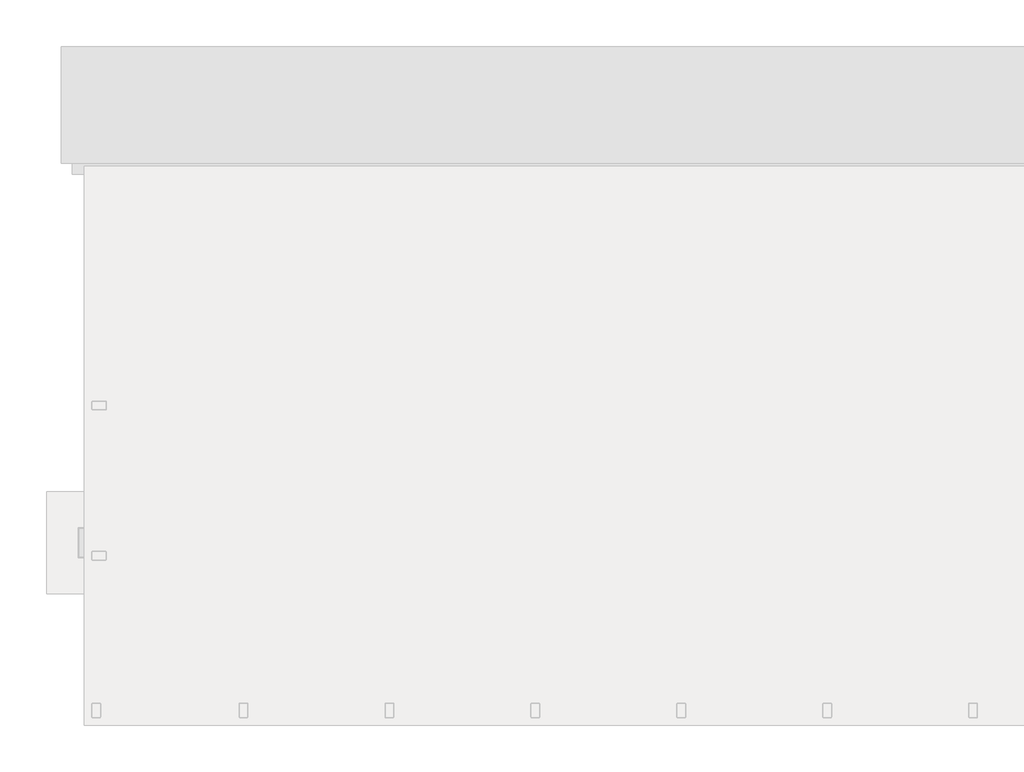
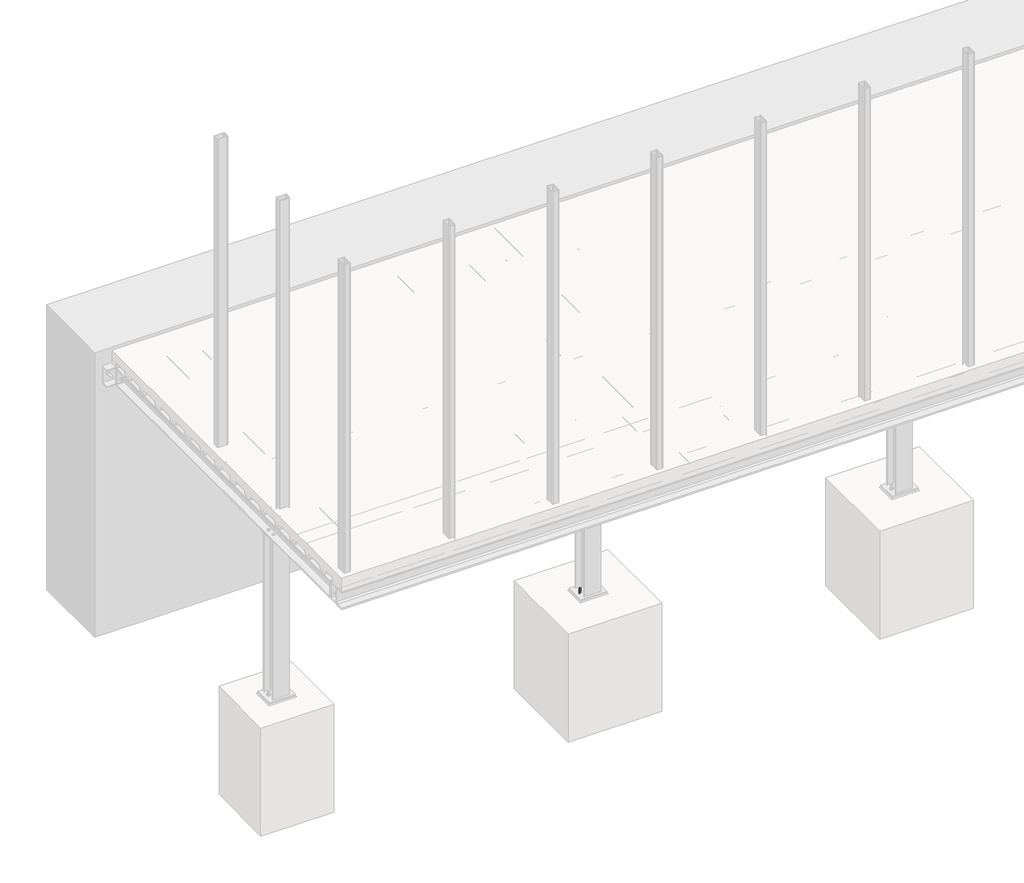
# One storey, part 22 of 36: 13 assemblies.
"""IFC4 building model written with IfcOpenShell, lengths in millimetres."""

from ifc_helpers import new_model, si_unit, point, frame, frame_2d, origin, place, context, project, spatial, polyline, circle_curve, trimmed, segment, composite_curve, outline, extrude, faceted_brep, element, save

model = new_model("IFC4")

# Units and contexts
model_context = context("Model", 3, world=origin())
ifc_project = project(units=[si_unit("LENGTHUNIT", "METRE", prefix="MILLI")], contexts=[model_context])

# Site, building, storey
site = spatial("IfcSite", under=ifc_project)
building = spatial("IfcBuilding", under=site)
storey = spatial("IfcBuildingStorey", under=building, Name="Základy", Elevation=-1200.0)

# Assemblies
placement = place(None, origin())
element("IfcElementAssembly", 1, at=placement, inside=storey, context=model_context, shape_type="SweptSolid", body=[
    extrude(outline(polyline([(3802.7875602, -160.0099992), (3772.2875602, -111.5000008), (3637.6975638, -111.5000008), (3607.1975638, -160.0000008), (3552.7875754, -160.0000008), (3522.2875754, -111.5000008), (3387.6975715, -111.5000008), (3357.1975715, -160.0000008), (3302.7875697, -160.0000008), (3272.2875716, -111.5000008), (3137.6975638, -111.5000008), (3107.1975638, -160.0000008), (3052.7875602, -160.0000008), (3022.2875602, -111.5000008), (2887.6975638, -111.5000008), (2857.1975638, -160.0000008), (2802.7875602, -160.0000008), (2790.7375724, -139.4300002), (2803.1975638, -159.2500008), (2856.7875602, -159.2500008), (2887.2875602, -110.7500008), (3022.6975638, -110.7500008), (3053.1975638, -159.2500008), (3106.7875754, -159.2500008), (3137.2875754, -110.7500008), (3272.6975715, -110.7500008), (3303.1975695, -159.2500008), (3356.7875716, -159.2500008), (3387.2875678, -110.7500008), (3522.6975638, -110.7500008), (3553.1975638, -159.2500008), (3606.7875602, -159.2500008), (3637.2875602, -110.7500008), (3772.6975638, -110.7500008), (3803.1975638, -159.2500008), (3839.9975821, -160.0000008), (3802.7875602, -160.0099992)])), frame((-40.0, 0.0, 0.0), z_axis=(1.0, 0.0, 0.0), x_axis=(0.0, 1.0, 0.0)), (0.0, 0.0, 1.0), 3180.0),
])
element("IfcElementAssembly", 2, at=placement, inside=storey, context=model_context, shape_type="SweptSolid", body=[
    extrude(outline(polyline([(2802.7875602, -160.0099992), (2772.2875602, -111.5000008), (2637.6975638, -111.5000008), (2607.1975638, -160.0000008), (2552.7875754, -160.0000008), (2522.2875754, -111.5000008), (2387.6975715, -111.5000008), (2357.1975715, -160.0000008), (2302.7875697, -160.0000008), (2272.2875716, -111.5000008), (2137.6975638, -111.5000008), (2107.1975638, -160.0000008), (2052.7875602, -160.0000008), (2022.2875602, -111.5000008), (1887.6975638, -111.5000008), (1857.1975638, -160.0000008), (1802.7875602, -160.0000008), (1790.7375724, -139.4300002), (1803.1975638, -159.2500008), (1856.7875602, -159.2500008), (1887.2875602, -110.7500008), (2022.6975638, -110.7500008), (2053.1975638, -159.2500008), (2106.7875754, -159.2500008), (2137.2875754, -110.7500008), (2272.6975715, -110.7500008), (2303.1975695, -159.2500008), (2356.7875716, -159.2500008), (2387.2875678, -110.7500008), (2522.6975638, -110.7500008), (2553.1975638, -159.2500008), (2606.7875602, -159.2500008), (2637.2875602, -110.7500008), (2772.6975638, -110.7500008), (2803.1975638, -159.2500008), (2839.9975821, -160.0000008), (2802.7875602, -160.0099992)])), frame((-40.0, 0.0, 0.0), z_axis=(1.0, 0.0, 0.0), x_axis=(0.0, 1.0, 0.0)), (0.0, 0.0, 1.0), 3180.0),
])
element("IfcElementAssembly", 3, at=placement, inside=storey, context=model_context, shape_type="SweptSolid", body=[
    extrude(outline(composite_curve([segment(polyline([(4073.6, 60.0), (4026.4, 60.0)]), True, "CONTINUOUS"), segment(trimmed(circle_curve(frame_2d((4026.4, 66.4)), 6.4), [point((4026.4, 60.0))], [point((4020.0, 66.4))], False, "CARTESIAN"), True, "CONTINUOUS"), segment(polyline([(4020.0, 66.4), (4020.0, 153.6)]), True, "CONTINUOUS"), segment(trimmed(circle_curve(frame_2d((4026.4, 153.6)), 6.4), [point((4020.0, 153.6))], [point((4026.4, 160.0))], False, "CARTESIAN"), True, "CONTINUOUS"), segment(polyline([(4026.4, 160.0), (4073.6, 160.0)]), True, "CONTINUOUS"), segment(trimmed(circle_curve(frame_2d((4073.6, 153.6)), 6.4), [point((4073.6, 160.0))], [point((4080.0, 153.6))], False, "CARTESIAN"), True, "CONTINUOUS"), segment(polyline([(4080.0, 153.6), (4080.0, 66.4)]), True, "CONTINUOUS"), segment(trimmed(circle_curve(frame_2d((4073.6, 66.4)), 6.4), [point((4080.0, 66.4))], [point((4073.6, 60.0))], False, "CARTESIAN"), True, "CONTINUOUS")], self_intersect=False), holes=[composite_curve([segment(trimmed(circle_curve(frame_2d((4073.6, 66.4)), 3.2), [point((4073.6, 63.2))], [point((4076.8, 66.4))], True, "CARTESIAN"), True, "CONTINUOUS"), segment(polyline([(4076.8, 66.4), (4076.8, 153.6)]), True, "CONTINUOUS"), segment(trimmed(circle_curve(frame_2d((4073.6, 153.6)), 3.2), [point((4076.8, 153.6))], [point((4073.6, 156.8))], True, "CARTESIAN"), True, "CONTINUOUS"), segment(polyline([(4073.6, 156.8), (4026.4, 156.8)]), True, "CONTINUOUS"), segment(trimmed(circle_curve(frame_2d((4026.4, 153.6)), 3.2), [point((4026.4, 156.8))], [point((4023.2, 153.6))], True, "CARTESIAN"), True, "CONTINUOUS"), segment(polyline([(4023.2, 153.6), (4023.2, 66.4)]), True, "CONTINUOUS"), segment(trimmed(circle_curve(frame_2d((4026.4, 66.4)), 3.2), [point((4023.2, 66.4))], [point((4026.4, 63.2))], True, "CARTESIAN"), True, "CONTINUOUS"), segment(polyline([(4026.4, 63.2), (4073.6, 63.2)]), True, "CONTINUOUS")], self_intersect=False)]), frame((0.0, 0.0, -160.0), z_axis=(0.0, 0.0, 1.0), x_axis=(1.0, 0.0, 0.0)), (0.0, 0.0, 1.0), 3320.0),
])
element("IfcElementAssembly", 4, at=placement, inside=storey, context=model_context, shape_type="SweptSolid", body=[
    extrude(outline(composite_curve([segment(polyline([(3130.0, 1184.0), (2970.0, 1184.0), (2970.0, 1193.0), (3032.0, 1193.0)]), True, "CONTINUOUS"), segment(trimmed(circle_curve(frame_2d((3032.0, 1208.0)), 15.0), [point((3032.0, 1193.0))], [point((3047.0, 1208.0))], True, "CARTESIAN"), True, "CONTINUOUS"), segment(polyline([(3047.0, 1208.0), (3047.0, 1312.0)]), True, "CONTINUOUS"), segment(trimmed(circle_curve(frame_2d((3032.0, 1312.0)), 15.0), [point((3047.0, 1312.0))], [point((3032.0, 1327.0))], True, "CARTESIAN"), True, "CONTINUOUS"), segment(polyline([(3032.0, 1327.0), (2970.0, 1327.0), (2970.0, 1336.0), (3130.0, 1336.0), (3130.0, 1327.0), (3068.0, 1327.0)]), True, "CONTINUOUS"), segment(trimmed(circle_curve(frame_2d((3068.0, 1312.0)), 15.0), [point((3068.0, 1327.0))], [point((3053.0, 1312.0))], True, "CARTESIAN"), True, "CONTINUOUS"), segment(polyline([(3053.0, 1312.0), (3053.0, 1208.0)]), True, "CONTINUOUS"), segment(trimmed(circle_curve(frame_2d((3068.0, 1208.0)), 15.0), [point((3053.0, 1208.0))], [point((3068.0, 1193.0))], True, "CARTESIAN"), True, "CONTINUOUS"), segment(polyline([(3068.0, 1193.0), (3130.0, 1193.0), (3130.0, 1184.0)]), True, "CONTINUOUS")], self_intersect=False)), frame((0.0, 0.0, -1975.0), z_axis=(0.0, 0.0, 1.0), x_axis=(1.0, 0.0, 0.0)), (0.0, 0.0, 1.0), 1625.0),
    extrude(outline(polyline([(3175.0, 1356.0), (3175.0, 1164.0), (2925.0, 1164.0), (2925.0, 1356.0), (3175.0, 1356.0)])), frame((0.0, 0.0, -1990.0), z_axis=(0.0, 0.0, 1.0), x_axis=(1.0, 0.0, 0.0)), (0.0, 0.0, 1.0), 15.0),
    extrude(outline(polyline([(3140.0, 1346.0), (3140.0, 1174.0), (2960.0, 1174.0), (2960.0, 1346.0), (3140.0, 1346.0)])), frame((0.0, 0.0, -350.0), z_axis=(0.0, 0.0, 1.0), x_axis=(1.0, 0.0, 0.0)), (0.0, 0.0, 1.0), 10.0),
    extrude(outline(polyline([(2982.7364934, 1260.0), (2978.8682467, 1253.3000002), (2971.1317533, 1253.3000002), (2967.2635066, 1260.0), (2971.1317533, 1266.6999998), (2978.8682467, 1266.6999998), (2982.7364934, 1260.0)])), frame((0.0, 0.0, -2122.0), z_axis=(0.0, 0.0, 1.0), x_axis=(1.0, 0.0, 0.0)), (0.0, 0.0, 1.0), 132.0),
    extrude(outline(composite_curve([segment(trimmed(circle_curve(frame_2d((2975.0, 1260.0)), 8.0), [point((2983.0, 1260.0))], [point((2967.0, 1260.0))], False, "CARTESIAN"), True, "CONTINUOUS"), segment(trimmed(circle_curve(frame_2d((2975.0, 1260.0)), 8.0), [point((2967.0, 1260.0))], [point((2983.0, 1260.0))], False, "CARTESIAN"), True, "CONTINUOUS")], self_intersect=False)), frame((0.0, 0.0, -1990.0), z_axis=(0.0, 0.0, 1.0), x_axis=(1.0, 0.0, 0.0)), (0.0, 0.0, 1.0), 58.0),
    extrude(outline(composite_curve([segment(trimmed(circle_curve(frame_2d((2975.0, 1260.0)), 15.0), [point((2990.0, 1260.0))], [point((2960.0, 1260.0))], False, "CARTESIAN"), True, "CONTINUOUS"), segment(trimmed(circle_curve(frame_2d((2975.0, 1260.0)), 15.0), [point((2960.0, 1260.0))], [point((2990.0, 1260.0))], False, "CARTESIAN"), True, "CONTINUOUS")], self_intersect=False)), frame((0.0, 0.0, -1975.0), z_axis=(0.0, 0.0, 1.0), x_axis=(1.0, 0.0, 0.0)), (0.0, 0.0, 1.0), 3.0),
    extrude(outline(polyline([(2990.4441197, 1260.0), (2982.7220599, 1246.625), (2967.2779401, 1246.625), (2959.5558803, 1260.0), (2967.2779401, 1273.375), (2982.7220599, 1273.375), (2990.4441197, 1260.0)])), frame((0.0, 0.0, -1972.0), z_axis=(0.0, 0.0, 1.0), x_axis=(1.0, 0.0, 0.0)), (0.0, 0.0, 1.0), 13.0),
    extrude(outline(composite_curve([segment(trimmed(circle_curve(frame_2d((2975.0, 1260.0)), 9.0), [point((2984.0, 1260.0))], [point((2966.0, 1260.0))], False, "CARTESIAN"), True, "CONTINUOUS"), segment(trimmed(circle_curve(frame_2d((2975.0, 1260.0)), 9.0), [point((2966.0, 1260.0))], [point((2984.0, 1260.0))], False, "CARTESIAN"), True, "CONTINUOUS")], self_intersect=False)), frame((0.0, 0.0, -1990.0), z_axis=(0.0, 0.0, 1.0), x_axis=(1.0, 0.0, 0.0)), (0.0, 0.0, 1.0), 15.1),
    extrude(outline(polyline([(3132.7364934, 1260.0), (3128.8682467, 1253.3000002), (3121.1317533, 1253.3000002), (3117.2635066, 1260.0), (3121.1317533, 1266.6999998), (3128.8682467, 1266.6999998), (3132.7364934, 1260.0)])), frame((0.0, 0.0, -2122.0), z_axis=(0.0, 0.0, 1.0), x_axis=(1.0, 0.0, 0.0)), (0.0, 0.0, 1.0), 132.0),
    extrude(outline(composite_curve([segment(trimmed(circle_curve(frame_2d((3125.0, 1260.0)), 8.0), [point((3133.0, 1260.0))], [point((3117.0, 1260.0))], False, "CARTESIAN"), True, "CONTINUOUS"), segment(trimmed(circle_curve(frame_2d((3125.0, 1260.0)), 8.0), [point((3117.0, 1260.0))], [point((3133.0, 1260.0))], False, "CARTESIAN"), True, "CONTINUOUS")], self_intersect=False)), frame((0.0, 0.0, -1990.0), z_axis=(0.0, 0.0, 1.0), x_axis=(1.0, 0.0, 0.0)), (0.0, 0.0, 1.0), 58.0),
    extrude(outline(composite_curve([segment(trimmed(circle_curve(frame_2d((3125.0, 1260.0)), 15.0), [point((3140.0, 1260.0))], [point((3110.0, 1260.0))], False, "CARTESIAN"), True, "CONTINUOUS"), segment(trimmed(circle_curve(frame_2d((3125.0, 1260.0)), 15.0), [point((3110.0, 1260.0))], [point((3140.0, 1260.0))], False, "CARTESIAN"), True, "CONTINUOUS")], self_intersect=False)), frame((0.0, 0.0, -1975.0), z_axis=(0.0, 0.0, 1.0), x_axis=(1.0, 0.0, 0.0)), (0.0, 0.0, 1.0), 3.0),
    extrude(outline(polyline([(3140.4441197, 1260.0), (3132.7220599, 1246.625), (3117.2779401, 1246.625), (3109.5558803, 1260.0), (3117.2779401, 1273.375), (3132.7220599, 1273.375), (3140.4441197, 1260.0)])), frame((0.0, 0.0, -1972.0), z_axis=(0.0, 0.0, 1.0), x_axis=(1.0, 0.0, 0.0)), (0.0, 0.0, 1.0), 13.0),
    extrude(outline(composite_curve([segment(trimmed(circle_curve(frame_2d((3125.0, 1260.0)), 9.0), [point((3134.0, 1260.0))], [point((3116.0, 1260.0))], False, "CARTESIAN"), True, "CONTINUOUS"), segment(trimmed(circle_curve(frame_2d((3125.0, 1260.0)), 9.0), [point((3116.0, 1260.0))], [point((3134.0, 1260.0))], False, "CARTESIAN"), True, "CONTINUOUS")], self_intersect=False)), frame((0.0, 0.0, -1990.0), z_axis=(0.0, 0.0, 1.0), x_axis=(1.0, 0.0, 0.0)), (0.0, 0.0, 1.0), 15.1),
    extrude(outline(composite_curve([segment(trimmed(circle_curve(frame_2d((3000.0, 1220.0)), 6.5), [point((3006.5, 1220.0))], [point((2993.5, 1220.0))], False, "CARTESIAN"), True, "CONTINUOUS"), segment(trimmed(circle_curve(frame_2d((3000.0, 1220.0)), 6.5), [point((2993.5, 1220.0))], [point((3006.5, 1220.0))], False, "CARTESIAN"), True, "CONTINUOUS")], self_intersect=False)), frame((0.0, 0.0, -350.0), z_axis=(0.0, 0.0, 1.0), x_axis=(1.0, 0.0, 0.0)), (0.0, 0.0, 1.0), 10.1),
    extrude(outline(polyline([(3010.3923048, 1220.0), (3005.1961524, 1211.0), (2994.8038476, 1211.0), (2989.6076952, 1220.0), (2994.8038476, 1229.0), (3005.1961524, 1229.0), (3010.3923048, 1220.0)])), frame((0.0, 0.0, -323.5), z_axis=(0.0, 0.0, 1.0), x_axis=(1.0, 0.0, 0.0)), (0.0, 0.0, 1.0), 7.5),
    extrude(outline(composite_curve([segment(trimmed(circle_curve(frame_2d((3000.0, 1220.0)), 6.0), [point((3006.0, 1220.0))], [point((2994.0, 1220.0))], False, "CARTESIAN"), True, "CONTINUOUS"), segment(trimmed(circle_curve(frame_2d((3000.0, 1220.0)), 6.0), [point((2994.0, 1220.0))], [point((3006.0, 1220.0))], False, "CARTESIAN"), True, "CONTINUOUS")], self_intersect=False)), frame((0.0, 0.0, -368.5), z_axis=(0.0, 0.0, 1.0), x_axis=(1.0, 0.0, 0.0)), (0.0, 0.0, 1.0), 45.0),
    extrude(outline(composite_curve([segment(trimmed(circle_curve(frame_2d((3000.0, 1220.0)), 12.0), [point((3012.0, 1220.0))], [point((2988.0, 1220.0))], False, "CARTESIAN"), True, "CONTINUOUS"), segment(trimmed(circle_curve(frame_2d((3000.0, 1220.0)), 12.0), [point((2988.0, 1220.0))], [point((3012.0, 1220.0))], False, "CARTESIAN"), True, "CONTINUOUS")], self_intersect=False)), frame((0.0, 0.0, -326.0), z_axis=(0.0, 0.0, 1.0), x_axis=(1.0, 0.0, 0.0)), (0.0, 0.0, 1.0), 2.5),
    extrude(outline(composite_curve([segment(trimmed(circle_curve(frame_2d((3000.0, 1220.0)), 12.0), [point((3012.0, 1220.0))], [point((2988.0, 1220.0))], False, "CARTESIAN"), True, "CONTINUOUS"), segment(trimmed(circle_curve(frame_2d((3000.0, 1220.0)), 12.0), [point((2988.0, 1220.0))], [point((3012.0, 1220.0))], False, "CARTESIAN"), True, "CONTINUOUS")], self_intersect=False)), frame((0.0, 0.0, -352.5), z_axis=(0.0, 0.0, 1.0), x_axis=(1.0, 0.0, 0.0)), (0.0, 0.0, 1.0), 2.5),
    extrude(outline(polyline([(3010.9696551, 1220.0), (3005.4848276, 1210.5), (2994.5151724, 1210.5), (2989.0303449, 1220.0), (2994.5151724, 1229.5), (3005.4848276, 1229.5), (3010.9696551, 1220.0)])), frame((0.0, 0.0, -362.5), z_axis=(0.0, 0.0, 1.0), x_axis=(1.0, 0.0, 0.0)), (0.0, 0.0, 1.0), 10.0),
    extrude(outline(composite_curve([segment(trimmed(circle_curve(frame_2d((3000.0, 1220.0)), 6.5), [point((3006.5, 1220.0))], [point((2993.5, 1220.0))], False, "CARTESIAN"), True, "CONTINUOUS"), segment(trimmed(circle_curve(frame_2d((3000.0, 1220.0)), 6.5), [point((2993.5, 1220.0))], [point((3006.5, 1220.0))], False, "CARTESIAN"), True, "CONTINUOUS")], self_intersect=False)), frame((0.0, 0.0, -340.1), z_axis=(0.0, 0.0, 1.0), x_axis=(1.0, 0.0, 0.0)), (0.0, 0.0, 1.0), 14.0),
    extrude(outline(composite_curve([segment(trimmed(circle_curve(frame_2d((3100.0, 1220.0)), 6.5), [point((3106.5, 1220.0))], [point((3093.5, 1220.0))], False, "CARTESIAN"), True, "CONTINUOUS"), segment(trimmed(circle_curve(frame_2d((3100.0, 1220.0)), 6.5), [point((3093.5, 1220.0))], [point((3106.5, 1220.0))], False, "CARTESIAN"), True, "CONTINUOUS")], self_intersect=False)), frame((0.0, 0.0, -350.0), z_axis=(0.0, 0.0, 1.0), x_axis=(1.0, 0.0, 0.0)), (0.0, 0.0, 1.0), 10.1),
    extrude(outline(polyline([(3110.3923048, 1220.0), (3105.1961524, 1211.0), (3094.8038476, 1211.0), (3089.6076952, 1220.0), (3094.8038476, 1229.0), (3105.1961524, 1229.0), (3110.3923048, 1220.0)])), frame((0.0, 0.0, -323.5), z_axis=(0.0, 0.0, 1.0), x_axis=(1.0, 0.0, 0.0)), (0.0, 0.0, 1.0), 7.5),
    extrude(outline(composite_curve([segment(trimmed(circle_curve(frame_2d((3100.0, 1220.0)), 6.0), [point((3106.0, 1220.0))], [point((3094.0, 1220.0))], False, "CARTESIAN"), True, "CONTINUOUS"), segment(trimmed(circle_curve(frame_2d((3100.0, 1220.0)), 6.0), [point((3094.0, 1220.0))], [point((3106.0, 1220.0))], False, "CARTESIAN"), True, "CONTINUOUS")], self_intersect=False)), frame((0.0, 0.0, -368.5), z_axis=(0.0, 0.0, 1.0), x_axis=(1.0, 0.0, 0.0)), (0.0, 0.0, 1.0), 45.0),
    extrude(outline(composite_curve([segment(trimmed(circle_curve(frame_2d((3100.0, 1220.0)), 12.0), [point((3112.0, 1220.0))], [point((3088.0, 1220.0))], False, "CARTESIAN"), True, "CONTINUOUS"), segment(trimmed(circle_curve(frame_2d((3100.0, 1220.0)), 12.0), [point((3088.0, 1220.0))], [point((3112.0, 1220.0))], False, "CARTESIAN"), True, "CONTINUOUS")], self_intersect=False)), frame((0.0, 0.0, -326.0), z_axis=(0.0, 0.0, 1.0), x_axis=(1.0, 0.0, 0.0)), (0.0, 0.0, 1.0), 2.5),
    extrude(outline(composite_curve([segment(trimmed(circle_curve(frame_2d((3100.0, 1220.0)), 12.0), [point((3112.0, 1220.0))], [point((3088.0, 1220.0))], False, "CARTESIAN"), True, "CONTINUOUS"), segment(trimmed(circle_curve(frame_2d((3100.0, 1220.0)), 12.0), [point((3088.0, 1220.0))], [point((3112.0, 1220.0))], False, "CARTESIAN"), True, "CONTINUOUS")], self_intersect=False)), frame((0.0, 0.0, -352.5), z_axis=(0.0, 0.0, 1.0), x_axis=(1.0, 0.0, 0.0)), (0.0, 0.0, 1.0), 2.5),
    extrude(outline(polyline([(3110.9696551, 1220.0), (3105.4848276, 1210.5), (3094.5151724, 1210.5), (3089.0303449, 1220.0), (3094.5151724, 1229.5), (3105.4848276, 1229.5), (3110.9696551, 1220.0)])), frame((0.0, 0.0, -362.5), z_axis=(0.0, 0.0, 1.0), x_axis=(1.0, 0.0, 0.0)), (0.0, 0.0, 1.0), 10.0),
    extrude(outline(composite_curve([segment(trimmed(circle_curve(frame_2d((3100.0, 1220.0)), 6.5), [point((3106.5, 1220.0))], [point((3093.5, 1220.0))], False, "CARTESIAN"), True, "CONTINUOUS"), segment(trimmed(circle_curve(frame_2d((3100.0, 1220.0)), 6.5), [point((3093.5, 1220.0))], [point((3106.5, 1220.0))], False, "CARTESIAN"), True, "CONTINUOUS")], self_intersect=False)), frame((0.0, 0.0, -340.1), z_axis=(0.0, 0.0, 1.0), x_axis=(1.0, 0.0, 0.0)), (0.0, 0.0, 1.0), 14.0),
    extrude(outline(composite_curve([segment(trimmed(circle_curve(frame_2d((3000.0, 1300.0)), 6.5), [point((3006.5, 1300.0))], [point((2993.5, 1300.0))], False, "CARTESIAN"), True, "CONTINUOUS"), segment(trimmed(circle_curve(frame_2d((3000.0, 1300.0)), 6.5), [point((2993.5, 1300.0))], [point((3006.5, 1300.0))], False, "CARTESIAN"), True, "CONTINUOUS")], self_intersect=False)), frame((0.0, 0.0, -350.0), z_axis=(0.0, 0.0, 1.0), x_axis=(1.0, 0.0, 0.0)), (0.0, 0.0, 1.0), 10.1),
    extrude(outline(polyline([(3010.3923048, 1300.0), (3005.1961524, 1291.0), (2994.8038476, 1291.0), (2989.6076952, 1300.0), (2994.8038476, 1309.0), (3005.1961524, 1309.0), (3010.3923048, 1300.0)])), frame((0.0, 0.0, -323.5), z_axis=(0.0, 0.0, 1.0), x_axis=(1.0, 0.0, 0.0)), (0.0, 0.0, 1.0), 7.5),
    extrude(outline(composite_curve([segment(trimmed(circle_curve(frame_2d((3000.0, 1300.0)), 6.0), [point((3006.0, 1300.0))], [point((2994.0, 1300.0))], False, "CARTESIAN"), True, "CONTINUOUS"), segment(trimmed(circle_curve(frame_2d((3000.0, 1300.0)), 6.0), [point((2994.0, 1300.0))], [point((3006.0, 1300.0))], False, "CARTESIAN"), True, "CONTINUOUS")], self_intersect=False)), frame((0.0, 0.0, -368.5), z_axis=(0.0, 0.0, 1.0), x_axis=(1.0, 0.0, 0.0)), (0.0, 0.0, 1.0), 45.0),
    extrude(outline(composite_curve([segment(trimmed(circle_curve(frame_2d((3000.0, 1300.0)), 12.0), [point((3012.0, 1300.0))], [point((2988.0, 1300.0))], False, "CARTESIAN"), True, "CONTINUOUS"), segment(trimmed(circle_curve(frame_2d((3000.0, 1300.0)), 12.0), [point((2988.0, 1300.0))], [point((3012.0, 1300.0))], False, "CARTESIAN"), True, "CONTINUOUS")], self_intersect=False)), frame((0.0, 0.0, -326.0), z_axis=(0.0, 0.0, 1.0), x_axis=(1.0, 0.0, 0.0)), (0.0, 0.0, 1.0), 2.5),
    extrude(outline(composite_curve([segment(trimmed(circle_curve(frame_2d((3000.0, 1300.0)), 12.0), [point((3012.0, 1300.0))], [point((2988.0, 1300.0))], False, "CARTESIAN"), True, "CONTINUOUS"), segment(trimmed(circle_curve(frame_2d((3000.0, 1300.0)), 12.0), [point((2988.0, 1300.0))], [point((3012.0, 1300.0))], False, "CARTESIAN"), True, "CONTINUOUS")], self_intersect=False)), frame((0.0, 0.0, -352.5), z_axis=(0.0, 0.0, 1.0), x_axis=(1.0, 0.0, 0.0)), (0.0, 0.0, 1.0), 2.5),
    extrude(outline(polyline([(3010.9696551, 1300.0), (3005.4848276, 1290.5), (2994.5151724, 1290.5), (2989.0303449, 1300.0), (2994.5151724, 1309.5), (3005.4848276, 1309.5), (3010.9696551, 1300.0)])), frame((0.0, 0.0, -362.5), z_axis=(0.0, 0.0, 1.0), x_axis=(1.0, 0.0, 0.0)), (0.0, 0.0, 1.0), 10.0),
    extrude(outline(composite_curve([segment(trimmed(circle_curve(frame_2d((3000.0, 1300.0)), 6.5), [point((3006.5, 1300.0))], [point((2993.5, 1300.0))], False, "CARTESIAN"), True, "CONTINUOUS"), segment(trimmed(circle_curve(frame_2d((3000.0, 1300.0)), 6.5), [point((2993.5, 1300.0))], [point((3006.5, 1300.0))], False, "CARTESIAN"), True, "CONTINUOUS")], self_intersect=False)), frame((0.0, 0.0, -340.1), z_axis=(0.0, 0.0, 1.0), x_axis=(1.0, 0.0, 0.0)), (0.0, 0.0, 1.0), 14.0),
    extrude(outline(composite_curve([segment(trimmed(circle_curve(frame_2d((3100.0, 1300.0)), 6.5), [point((3106.5, 1300.0))], [point((3093.5, 1300.0))], False, "CARTESIAN"), True, "CONTINUOUS"), segment(trimmed(circle_curve(frame_2d((3100.0, 1300.0)), 6.5), [point((3093.5, 1300.0))], [point((3106.5, 1300.0))], False, "CARTESIAN"), True, "CONTINUOUS")], self_intersect=False)), frame((0.0, 0.0, -350.0), z_axis=(0.0, 0.0, 1.0), x_axis=(1.0, 0.0, 0.0)), (0.0, 0.0, 1.0), 10.1),
    extrude(outline(polyline([(3110.3923048, 1300.0), (3105.1961524, 1291.0), (3094.8038476, 1291.0), (3089.6076952, 1300.0), (3094.8038476, 1309.0), (3105.1961524, 1309.0), (3110.3923048, 1300.0)])), frame((0.0, 0.0, -323.5), z_axis=(0.0, 0.0, 1.0), x_axis=(1.0, 0.0, 0.0)), (0.0, 0.0, 1.0), 7.5),
    extrude(outline(composite_curve([segment(trimmed(circle_curve(frame_2d((3100.0, 1300.0)), 6.0), [point((3106.0, 1300.0))], [point((3094.0, 1300.0))], False, "CARTESIAN"), True, "CONTINUOUS"), segment(trimmed(circle_curve(frame_2d((3100.0, 1300.0)), 6.0), [point((3094.0, 1300.0))], [point((3106.0, 1300.0))], False, "CARTESIAN"), True, "CONTINUOUS")], self_intersect=False)), frame((0.0, 0.0, -368.5), z_axis=(0.0, 0.0, 1.0), x_axis=(1.0, 0.0, 0.0)), (0.0, 0.0, 1.0), 45.0),
    extrude(outline(composite_curve([segment(trimmed(circle_curve(frame_2d((3100.0, 1300.0)), 12.0), [point((3112.0, 1300.0))], [point((3088.0, 1300.0))], False, "CARTESIAN"), True, "CONTINUOUS"), segment(trimmed(circle_curve(frame_2d((3100.0, 1300.0)), 12.0), [point((3088.0, 1300.0))], [point((3112.0, 1300.0))], False, "CARTESIAN"), True, "CONTINUOUS")], self_intersect=False)), frame((0.0, 0.0, -326.0), z_axis=(0.0, 0.0, 1.0), x_axis=(1.0, 0.0, 0.0)), (0.0, 0.0, 1.0), 2.5),
    extrude(outline(composite_curve([segment(trimmed(circle_curve(frame_2d((3100.0, 1300.0)), 12.0), [point((3112.0, 1300.0))], [point((3088.0, 1300.0))], False, "CARTESIAN"), True, "CONTINUOUS"), segment(trimmed(circle_curve(frame_2d((3100.0, 1300.0)), 12.0), [point((3088.0, 1300.0))], [point((3112.0, 1300.0))], False, "CARTESIAN"), True, "CONTINUOUS")], self_intersect=False)), frame((0.0, 0.0, -352.5), z_axis=(0.0, 0.0, 1.0), x_axis=(1.0, 0.0, 0.0)), (0.0, 0.0, 1.0), 2.5),
    extrude(outline(polyline([(3110.9696551, 1300.0), (3105.4848276, 1290.5), (3094.5151724, 1290.5), (3089.0303449, 1300.0), (3094.5151724, 1309.5), (3105.4848276, 1309.5), (3110.9696551, 1300.0)])), frame((0.0, 0.0, -362.5), z_axis=(0.0, 0.0, 1.0), x_axis=(1.0, 0.0, 0.0)), (0.0, 0.0, 1.0), 10.0),
    extrude(outline(composite_curve([segment(trimmed(circle_curve(frame_2d((3100.0, 1300.0)), 6.5), [point((3106.5, 1300.0))], [point((3093.5, 1300.0))], False, "CARTESIAN"), True, "CONTINUOUS"), segment(trimmed(circle_curve(frame_2d((3100.0, 1300.0)), 6.5), [point((3093.5, 1300.0))], [point((3106.5, 1300.0))], False, "CARTESIAN"), True, "CONTINUOUS")], self_intersect=False)), frame((0.0, 0.0, -340.1), z_axis=(0.0, 0.0, 1.0), x_axis=(1.0, 0.0, 0.0)), (0.0, 0.0, 1.0), 14.0),
])
element("IfcElementAssembly", 5, at=placement, inside=storey, context=model_context, shape_type="Brep", body=[
    faceted_brep([(2925.0, 1356.0, -1990.0), (2925.0, 1164.0, -1990.0), (3175.0, 1164.0, -1990.0), (3175.0, 1356.0, -1990.0), (3185.0, 1154.0, -2000.0), (2915.0, 1154.0, -2000.0), (2915.0, 1366.0, -2000.0), (3185.0, 1366.0, -2000.0)], [[[0, 1, 2, 3]], [[4, 5, 6, 7]], [[5, 4, 2, 1]], [[1, 0, 6, 5]], [[7, 6, 0, 3]], [[3, 2, 4, 7]]]),
])
element("IfcElementAssembly", 6, at=placement, inside=storey, context=model_context, shape_type="SweptSolid", body=[
    extrude(outline(composite_curve([segment(polyline([(110.0, 2223.6), (110.0, 2176.4)]), True, "CONTINUOUS"), segment(trimmed(circle_curve(frame_2d((103.6, 2176.4)), 6.4), [point((110.0, 2176.4))], [point((103.6, 2170.0))], False, "CARTESIAN"), True, "CONTINUOUS"), segment(polyline([(103.6, 2170.0), (16.4, 2170.0)]), True, "CONTINUOUS"), segment(trimmed(circle_curve(frame_2d((16.4, 2176.4)), 6.4), [point((16.4, 2170.0))], [point((10.0, 2176.4))], False, "CARTESIAN"), True, "CONTINUOUS"), segment(polyline([(10.0, 2176.4), (10.0, 2223.6)]), True, "CONTINUOUS"), segment(trimmed(circle_curve(frame_2d((16.4, 2223.6)), 6.4), [point((10.0, 2223.6))], [point((16.4, 2230.0))], False, "CARTESIAN"), True, "CONTINUOUS"), segment(polyline([(16.4, 2230.0), (103.6, 2230.0)]), True, "CONTINUOUS"), segment(trimmed(circle_curve(frame_2d((103.6, 2223.6)), 6.4), [point((103.6, 2230.0))], [point((110.0, 2223.6))], False, "CARTESIAN"), True, "CONTINUOUS")], self_intersect=False), holes=[composite_curve([segment(trimmed(circle_curve(frame_2d((103.6, 2223.6)), 3.2), [point((106.8, 2223.6))], [point((103.6, 2226.8))], True, "CARTESIAN"), True, "CONTINUOUS"), segment(polyline([(103.6, 2226.8), (16.4, 2226.8)]), True, "CONTINUOUS"), segment(trimmed(circle_curve(frame_2d((16.4, 2223.6)), 3.2), [point((16.4, 2226.8))], [point((13.2, 2223.6))], True, "CARTESIAN"), True, "CONTINUOUS"), segment(polyline([(13.2, 2223.6), (13.2, 2176.4)]), True, "CONTINUOUS"), segment(trimmed(circle_curve(frame_2d((16.4, 2176.4)), 3.2), [point((13.2, 2176.4))], [point((16.4, 2173.2))], True, "CARTESIAN"), True, "CONTINUOUS"), segment(polyline([(16.4, 2173.2), (103.6, 2173.2)]), True, "CONTINUOUS"), segment(trimmed(circle_curve(frame_2d((103.6, 2176.4)), 3.2), [point((103.6, 2173.2))], [point((106.8, 2176.4))], True, "CARTESIAN"), True, "CONTINUOUS"), segment(polyline([(106.8, 2176.4), (106.8, 2223.6)]), True, "CONTINUOUS")], self_intersect=False)]), frame((0.0, 0.0, -160.0), z_axis=(0.0, 0.0, 1.0), x_axis=(1.0, 0.0, 0.0)), (0.0, 0.0, 1.0), 3280.0),
])
element("IfcElementAssembly", 7, at=placement, inside=storey, context=model_context, shape_type="SweptSolid", body=[
    extrude(outline(composite_curve([segment(trimmed(circle_curve(frame_2d((-49.0, 3027.5)), 4.0), [point((-49.0, 3023.5))], [point((-49.0, 3031.5))], False, "CARTESIAN"), True, "CONTINUOUS"), segment(trimmed(circle_curve(frame_2d((-49.0, 3027.5)), 4.0), [point((-49.0, 3031.5))], [point((-49.0, 3023.5))], False, "CARTESIAN"), True, "CONTINUOUS")], self_intersect=False)), frame((0.0, 35.0, 0.0), z_axis=(0.0, 1.0, 0.0), x_axis=(0.0, 0.0, 1.0)), (0.0, 0.0, 1.0), 3780.0),
])
element("IfcElementAssembly", 8, at=placement, inside=storey, context=model_context, shape_type="SweptSolid", body=[
    extrude(outline(composite_curve([segment(trimmed(circle_curve(frame_2d((-49.0, 3177.5)), 4.0), [point((-49.0, 3173.5))], [point((-49.0, 3181.5))], False, "CARTESIAN"), True, "CONTINUOUS"), segment(trimmed(circle_curve(frame_2d((-49.0, 3177.5)), 4.0), [point((-49.0, 3181.5))], [point((-49.0, 3173.5))], False, "CARTESIAN"), True, "CONTINUOUS")], self_intersect=False)), frame((0.0, 35.0, 0.0), z_axis=(0.0, 1.0, 0.0), x_axis=(0.0, 0.0, 1.0)), (0.0, 0.0, 1.0), 3780.0),
])
element("IfcElementAssembly", 9, at=placement, inside=storey, context=model_context, shape_type="SweptSolid", body=[
    extrude(outline(composite_curve([segment(trimmed(circle_curve(frame_2d((-49.0, 3327.5)), 4.0), [point((-49.0, 3323.5))], [point((-49.0, 3331.5))], False, "CARTESIAN"), True, "CONTINUOUS"), segment(trimmed(circle_curve(frame_2d((-49.0, 3327.5)), 4.0), [point((-49.0, 3331.5))], [point((-49.0, 3323.5))], False, "CARTESIAN"), True, "CONTINUOUS")], self_intersect=False)), frame((0.0, 35.0, 0.0), z_axis=(0.0, 1.0, 0.0), x_axis=(0.0, 0.0, 1.0)), (0.0, 0.0, 1.0), 3780.0),
])
element("IfcElementAssembly", 10, at=placement, inside=storey, context=model_context, shape_type="SweptSolid", body=[
    extrude(outline(composite_curve([segment(trimmed(circle_curve(frame_2d((-49.0, 3477.5)), 4.0), [point((-49.0, 3473.5))], [point((-49.0, 3481.5))], False, "CARTESIAN"), True, "CONTINUOUS"), segment(trimmed(circle_curve(frame_2d((-49.0, 3477.5)), 4.0), [point((-49.0, 3481.5))], [point((-49.0, 3473.5))], False, "CARTESIAN"), True, "CONTINUOUS")], self_intersect=False)), frame((0.0, 35.0, 0.0), z_axis=(0.0, 1.0, 0.0), x_axis=(0.0, 0.0, 1.0)), (0.0, 0.0, 1.0), 3780.0),
])
element("IfcElementAssembly", 11, at=placement, inside=storey, context=model_context, shape_type="SweptSolid", body=[
    extrude(outline(composite_curve([segment(trimmed(circle_curve(frame_2d((-49.0, 3627.5)), 4.0), [point((-49.0, 3623.5))], [point((-49.0, 3631.5))], False, "CARTESIAN"), True, "CONTINUOUS"), segment(trimmed(circle_curve(frame_2d((-49.0, 3627.5)), 4.0), [point((-49.0, 3631.5))], [point((-49.0, 3623.5))], False, "CARTESIAN"), True, "CONTINUOUS")], self_intersect=False)), frame((0.0, 35.0, 0.0), z_axis=(0.0, 1.0, 0.0), x_axis=(0.0, 0.0, 1.0)), (0.0, 0.0, 1.0), 3780.0),
])
element("IfcElementAssembly", 12, at=placement, inside=storey, context=model_context, shape_type="SweptSolid", body=[
    extrude(outline(composite_curve([segment(trimmed(circle_curve(frame_2d((-49.0, 3777.5)), 4.0), [point((-49.0, 3773.5))], [point((-49.0, 3781.5))], False, "CARTESIAN"), True, "CONTINUOUS"), segment(trimmed(circle_curve(frame_2d((-49.0, 3777.5)), 4.0), [point((-49.0, 3781.5))], [point((-49.0, 3773.5))], False, "CARTESIAN"), True, "CONTINUOUS")], self_intersect=False)), frame((0.0, 35.0, 0.0), z_axis=(0.0, 1.0, 0.0), x_axis=(0.0, 0.0, 1.0)), (0.0, 0.0, 1.0), 3780.0),
])
element("IfcElementAssembly", 13, at=placement, inside=storey, context=model_context, shape_type="SweptSolid", body=[
    extrude(outline(composite_curve([segment(trimmed(circle_curve(frame_2d((-49.0, 3927.5)), 4.0), [point((-49.0, 3923.5))], [point((-49.0, 3931.5))], False, "CARTESIAN"), True, "CONTINUOUS"), segment(trimmed(circle_curve(frame_2d((-49.0, 3927.5)), 4.0), [point((-49.0, 3931.5))], [point((-49.0, 3923.5))], False, "CARTESIAN"), True, "CONTINUOUS")], self_intersect=False)), frame((0.0, 35.0, 0.0), z_axis=(0.0, 1.0, 0.0), x_axis=(0.0, 0.0, 1.0)), (0.0, 0.0, 1.0), 3780.0),
])

save(model, "model.ifc")
